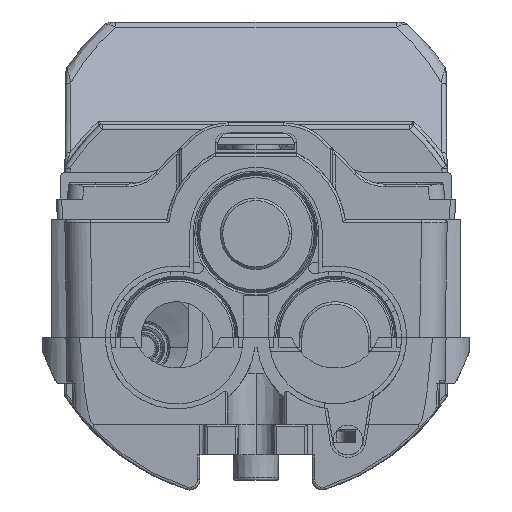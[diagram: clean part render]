
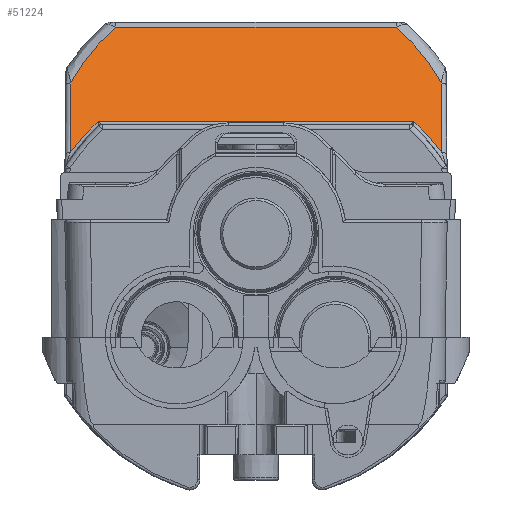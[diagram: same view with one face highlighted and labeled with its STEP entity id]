
A CAD part, left-side view. The second image highlights one B-rep face of the part: STEP entity #51224.
In plain terms, the highlighted planar face has unit normal (-0.866, 0, 0.5).
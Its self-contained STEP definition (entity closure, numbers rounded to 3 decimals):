
#15 = CARTESIAN_POINT ( 'NONE',  ( -247.83, 27.457, 94.75 ) ) ;
#1569 = LINE ( 'NONE', #27446, #13411 ) ;
#2022 = CARTESIAN_POINT ( 'NONE',  ( -251.762, -33.965, 87.941 ) ) ;
#2140 = DIRECTION ( 'NONE',  ( 0., -1., 0. ) ) ;
#3420 = CARTESIAN_POINT ( 'NONE',  ( -262.02, -36.383, 70.173 ) ) ;
#3550 = CARTESIAN_POINT ( 'NONE',  ( -259.584, 32.907, 74.392 ) ) ;
#4257 = CARTESIAN_POINT ( 'NONE',  ( -258.518, -36.33, 76.238 ) ) ;
#5142 = VERTEX_POINT ( 'NONE', #37932 ) ;
#5360 = VERTEX_POINT ( 'NONE', #39236 ) ;
#5446 = DIRECTION ( 'NONE',  ( -0.5, 0.008, -0.866 ) ) ;
#5856 = VERTEX_POINT ( 'NONE', #15 ) ;
#6462 = VERTEX_POINT ( 'NONE', #29395 ) ;
#6512 = CARTESIAN_POINT ( 'NONE',  ( -247.83, -27.457, 94.75 ) ) ;
#7732 = EDGE_CURVE ( 'NONE', #6462, #5360, #41237, .T. ) ;
#9002 = DIRECTION ( 'NONE',  ( 0.5, 0.008, 0.866 ) ) ;
#9590 = ORIENTED_EDGE ( 'NONE', *, *, #23450, .T. ) ;
#10834 = VECTOR ( 'NONE', #2140, 1000. ) ;
#11215 = VECTOR ( 'NONE', #49203, 1000. ) ;
#12393 = VECTOR ( 'NONE', #9002, 1000. ) ;
#12555 = LINE ( 'NONE', #24206, #11215 ) ;
#13294 = CARTESIAN_POINT ( 'NONE',  ( -259.584, -32.907, 74.392 ) ) ;
#13411 = VECTOR ( 'NONE', #5446, 1000. ) ;
#14550 = EDGE_LOOP ( 'NONE', ( #26788, #9590, #52369, #18171, #32767, #29390, #19357, #36543 ) ) ;
#15185 = VERTEX_POINT ( 'NONE', #41948 ) ;
#15203 = DIRECTION ( 'NONE',  ( -0.866, 0., 0.5 ) ) ;
#17760 = CARTESIAN_POINT ( 'NONE',  ( -260.757, -34.74, 72.361 ) ) ;
#18171 = ORIENTED_EDGE ( 'NONE', *, *, #21501, .T. ) ;
#18852 = CARTESIAN_POINT ( 'NONE',  ( -249.636, 31.001, 91.623 ) ) ;
#19133 = CARTESIAN_POINT ( 'NONE',  ( -258.8, 38.25, 75.75 ) ) ;
#19357 = ORIENTED_EDGE ( 'NONE', *, *, #46006, .T. ) ;
#20723 = EDGE_CURVE ( 'NONE', #38430, #36061, #20949, .T. ) ;
#20949 =( BOUNDED_CURVE ( )  B_SPLINE_CURVE ( 3, ( #53477, #2022, #32755, #6512 ),
 .UNSPECIFIED., .F., .F. ) 
 B_SPLINE_CURVE_WITH_KNOTS ( ( 4, 4 ),
 ( 5.22, 5.56 ),
 .UNSPECIFIED. ) 
 CURVE ( )  GEOMETRIC_REPRESENTATION_ITEM ( )  RATIONAL_B_SPLINE_CURVE ( ( 1., 0.99, 0.99, 1. ) ) 
 REPRESENTATION_ITEM ( '' )  );
#21166 = CARTESIAN_POINT ( 'NONE',  ( -260.757, 34.74, 72.361 ) ) ;
#21501 = EDGE_CURVE ( 'NONE', #15185, #6462, #1569, .T. ) ;
#23283 = CARTESIAN_POINT ( 'NONE',  ( -254.146, 36.264, 83.81 ) ) ;
#23450 = EDGE_CURVE ( 'NONE', #36061, #5856, #12555, .T. ) ;
#24104 = LINE ( 'NONE', #4257, #12393 ) ;
#24206 = CARTESIAN_POINT ( 'NONE',  ( -247.83, 26.28, 94.75 ) ) ;
#26788 = ORIENTED_EDGE ( 'NONE', *, *, #20723, .T. ) ;
#27446 = CARTESIAN_POINT ( 'NONE',  ( -258.807, 36.334, 75.737 ) ) ;
#29390 = ORIENTED_EDGE ( 'NONE', *, *, #53469, .T. ) ;
#29395 = CARTESIAN_POINT ( 'NONE',  ( -262.02, 36.383, 70.173 ) ) ;
#29442 = EDGE_CURVE ( 'NONE', #5856, #15185, #35073, .T. ) ;
#29690 = EDGE_CURVE ( 'NONE', #32949, #38430, #24104, .T. ) ;
#32755 = CARTESIAN_POINT ( 'NONE',  ( -249.636, -31.001, 91.623 ) ) ;
#32767 = ORIENTED_EDGE ( 'NONE', *, *, #7732, .T. ) ;
#32949 = VERTEX_POINT ( 'NONE', #3420 ) ;
#33984 = LINE ( 'NONE', #53592, #10834 ) ;
#34209 = CARTESIAN_POINT ( 'NONE',  ( -258.511, 30.898, 76.25 ) ) ;
#35073 =( BOUNDED_CURVE ( )  B_SPLINE_CURVE ( 3, ( #44276, #18852, #48338, #23283 ),
 .UNSPECIFIED., .F., .T. ) 
 B_SPLINE_CURVE_WITH_KNOTS ( ( 4, 4 ),
 ( 0.723, 1.063 ),
 .UNSPECIFIED. ) 
 CURVE ( )  GEOMETRIC_REPRESENTATION_ITEM ( )  RATIONAL_B_SPLINE_CURVE ( ( 1., 0.99, 0.99, 1. ) ) 
 REPRESENTATION_ITEM ( '' )  );
#36061 = VERTEX_POINT ( 'NONE', #44337 ) ;
#36543 = ORIENTED_EDGE ( 'NONE', *, *, #29690, .T. ) ;
#37121 = AXIS2_PLACEMENT_3D ( 'NONE', #19133, #15203, #45043 ) ;
#37932 = CARTESIAN_POINT ( 'NONE',  ( -258.511, -30.898, 76.25 ) ) ;
#38430 = VERTEX_POINT ( 'NONE', #51000 ) ;
#39169 = CARTESIAN_POINT ( 'NONE',  ( -258.511, -30.898, 76.25 ) ) ;
#39236 = CARTESIAN_POINT ( 'NONE',  ( -258.511, 30.898, 76.25 ) ) ;
#40966 = PLANE ( 'NONE',  #37121 ) ;
#41237 =( BOUNDED_CURVE ( )  B_SPLINE_CURVE ( 3, ( #46415, #21166, #3550, #34209 ),
 .UNSPECIFIED., .F., .T. ) 
 B_SPLINE_CURVE_WITH_KNOTS ( ( 4, 4 ),
 ( 2.215, 2.395 ),
 .UNSPECIFIED. ) 
 CURVE ( )  GEOMETRIC_REPRESENTATION_ITEM ( )  RATIONAL_B_SPLINE_CURVE ( ( 1., 0.997, 0.997, 1. ) ) 
 REPRESENTATION_ITEM ( '' )  );
#41948 = CARTESIAN_POINT ( 'NONE',  ( -254.146, 36.264, 83.81 ) ) ;
#44276 = CARTESIAN_POINT ( 'NONE',  ( -247.83, 27.457, 94.75 ) ) ;
#44337 = CARTESIAN_POINT ( 'NONE',  ( -247.83, -27.457, 94.75 ) ) ;
#45043 = DIRECTION ( 'NONE',  ( 0.5, 0., 0.866 ) ) ;
#46006 = EDGE_CURVE ( 'NONE', #5142, #32949, #51524, .T. ) ;
#46040 = FACE_OUTER_BOUND ( 'NONE', #14550, .T. ) ;
#46415 = CARTESIAN_POINT ( 'NONE',  ( -262.02, 36.383, 70.173 ) ) ;
#47335 = CARTESIAN_POINT ( 'NONE',  ( -262.02, -36.383, 70.173 ) ) ;
#48338 = CARTESIAN_POINT ( 'NONE',  ( -251.762, 33.965, 87.941 ) ) ;
#49203 = DIRECTION ( 'NONE',  ( 0., 1., 0. ) ) ;
#51000 = CARTESIAN_POINT ( 'NONE',  ( -254.146, -36.264, 83.81 ) ) ;
#51224 = ADVANCED_FACE ( 'NONE', ( #46040 ), #40966, .T. ) ;
#51524 =( BOUNDED_CURVE ( )  B_SPLINE_CURVE ( 3, ( #39169, #13294, #17760, #47335 ),
 .UNSPECIFIED., .F., .F. ) 
 B_SPLINE_CURVE_WITH_KNOTS ( ( 4, 4 ),
 ( 3.888, 4.068 ),
 .UNSPECIFIED. ) 
 CURVE ( )  GEOMETRIC_REPRESENTATION_ITEM ( )  RATIONAL_B_SPLINE_CURVE ( ( 1., 0.997, 0.997, 1. ) ) 
 REPRESENTATION_ITEM ( '' )  );
#52369 = ORIENTED_EDGE ( 'NONE', *, *, #29442, .T. ) ;
#53469 = EDGE_CURVE ( 'NONE', #5360, #5142, #33984, .T. ) ;
#53477 = CARTESIAN_POINT ( 'NONE',  ( -254.146, -36.264, 83.81 ) ) ;
#53592 = CARTESIAN_POINT ( 'NONE',  ( -258.511, 38.25, 76.25 ) ) ;
